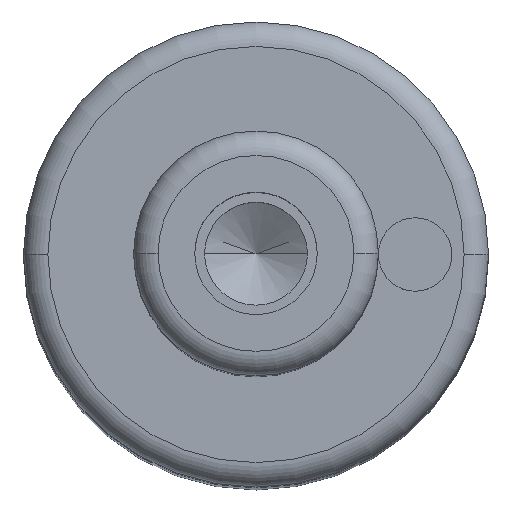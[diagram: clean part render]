
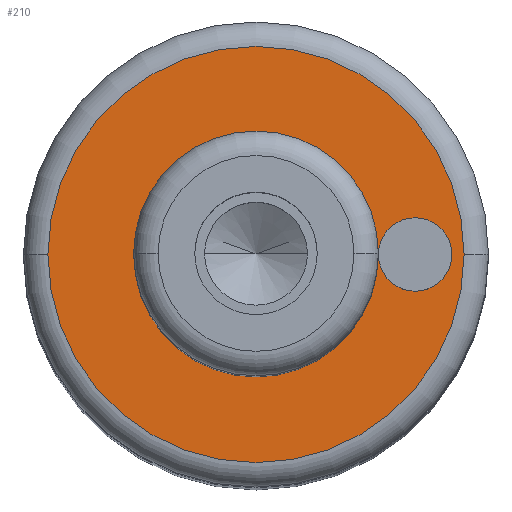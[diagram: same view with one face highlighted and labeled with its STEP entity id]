
A CAD part, top view. The second image highlights one B-rep face of the part: STEP entity #210.
In plain terms, the highlighted planar face has unit normal (0, 0, 1).
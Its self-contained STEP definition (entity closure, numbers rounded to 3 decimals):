
#99=PLANE('',#660);
#107=FACE_BOUND('',#285,.T.);
#108=FACE_BOUND('',#286,.T.);
#109=FACE_BOUND('',#287,.T.);
#210=ADVANCED_FACE('',(#107,#108,#109),#99,.T.);
#285=EDGE_LOOP('',(#395,#396));
#286=EDGE_LOOP('',(#397,#398));
#287=EDGE_LOOP('',(#399,#400));
#395=ORIENTED_EDGE('',*,*,#500,.F.);
#396=ORIENTED_EDGE('',*,*,#501,.F.);
#397=ORIENTED_EDGE('',*,*,#533,.F.);
#398=ORIENTED_EDGE('',*,*,#534,.F.);
#399=ORIENTED_EDGE('',*,*,#496,.T.);
#400=ORIENTED_EDGE('',*,*,#494,.T.);
#447=VERTEX_POINT('',#894);
#448=VERTEX_POINT('',#896);
#449=VERTEX_POINT('',#902);
#452=VERTEX_POINT('',#907);
#470=VERTEX_POINT('',#977);
#471=VERTEX_POINT('',#978);
#494=EDGE_CURVE('',#448,#447,#561,.T.);
#496=EDGE_CURVE('',#447,#448,#562,.T.);
#500=EDGE_CURVE('',#452,#449,#566,.T.);
#501=EDGE_CURVE('',#449,#452,#567,.T.);
#533=EDGE_CURVE('',#470,#471,#587,.T.);
#534=EDGE_CURVE('',#471,#470,#588,.T.);
#561=CIRCLE('',#612,5.);
#562=CIRCLE('',#614,5.);
#566=CIRCLE('',#619,8.5);
#567=CIRCLE('',#621,8.5);
#587=CIRCLE('',#658,1.5);
#588=CIRCLE('',#659,1.5);
#612=AXIS2_PLACEMENT_3D('',#895,#711,#712);
#614=AXIS2_PLACEMENT_3D('',#899,#716,#717);
#619=AXIS2_PLACEMENT_3D('',#908,#726,#727);
#621=AXIS2_PLACEMENT_3D('',#910,#730,#731);
#658=AXIS2_PLACEMENT_3D('',#976,#816,#817);
#659=AXIS2_PLACEMENT_3D('',#979,#818,#819);
#660=AXIS2_PLACEMENT_3D('',#980,#820,#821);
#711=DIRECTION('',(0.,0.,-1.));
#712=DIRECTION('',(-1.,0.,0.));
#716=DIRECTION('',(0.,0.,-1.));
#717=DIRECTION('',(-1.,0.,0.));
#726=DIRECTION('',(0.,0.,-1.));
#727=DIRECTION('',(-1.,0.,0.));
#730=DIRECTION('',(0.,0.,-1.));
#731=DIRECTION('',(-1.,0.,0.));
#816=DIRECTION('',(0.,0.,1.));
#817=DIRECTION('',(1.,0.,0.));
#818=DIRECTION('',(0.,0.,1.));
#819=DIRECTION('',(1.,0.,0.));
#820=DIRECTION('',(0.,0.,1.));
#821=DIRECTION('',(0.,-1.,0.));
#894=CARTESIAN_POINT('',(-5.,0.,69.));
#895=CARTESIAN_POINT('',(0.,0.,69.));
#896=CARTESIAN_POINT('',(5.,0.,69.));
#899=CARTESIAN_POINT('',(0.,0.,69.));
#902=CARTESIAN_POINT('',(-8.5,0.,69.));
#907=CARTESIAN_POINT('',(8.5,0.,69.));
#908=CARTESIAN_POINT('',(0.,0.,69.));
#910=CARTESIAN_POINT('',(0.,0.,69.));
#976=CARTESIAN_POINT('',(6.5,0.,69.));
#977=CARTESIAN_POINT('',(5.,0.,69.));
#978=CARTESIAN_POINT('',(8.,0.,69.));
#979=CARTESIAN_POINT('',(6.5,0.,69.));
#980=CARTESIAN_POINT('',(0.,0.,69.));
